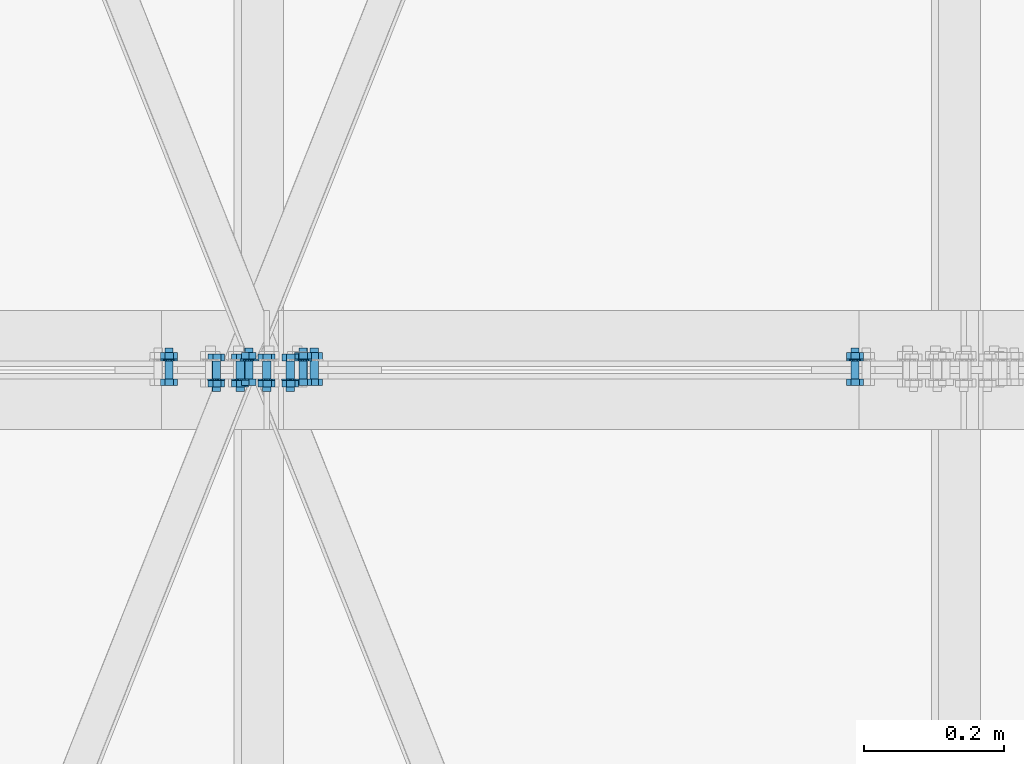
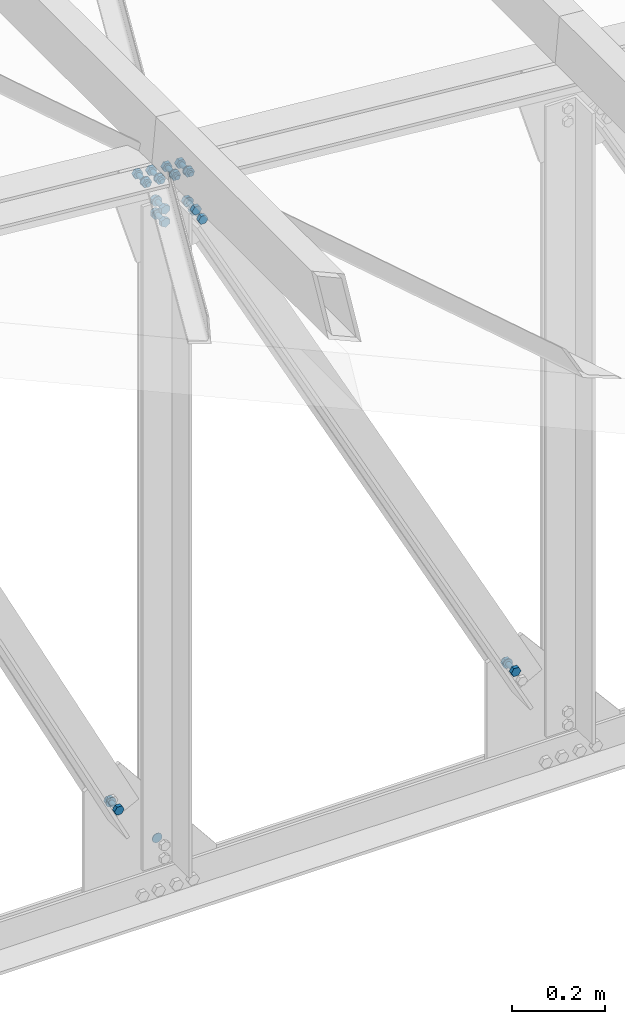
# One storey, part 80 of 251: 40 mechanical fasteners.
"""IFC4 building model written with IfcOpenShell, lengths in metres."""

from ifc_helpers import new_model, si_unit, frame, origin_with_axes, place, context, project, spatial, polyline, outline, extrude, type_object, element, save


model = new_model("IFC4")

# Units and contexts
model_context = context("Model", 3, precision=1e-05, world=origin_with_axes())
ifc_project = project(units=[si_unit("LENGTHUNIT", "METRE"), si_unit("AREAUNIT", "SQUARE_METRE"), si_unit("VOLUMEUNIT", "CUBIC_METRE"), si_unit("MASSUNIT", "GRAM", prefix="KILO"), si_unit("TIMEUNIT", "SECOND"), si_unit("PLANEANGLEUNIT", "RADIAN"), si_unit("SOLIDANGLEUNIT", "STERADIAN"), si_unit("THERMODYNAMICTEMPERATUREUNIT", "DEGREE_CELSIUS")], contexts=[model_context])

# Site, building, storey
placement_1 = place(None, origin_with_axes())
site = spatial("IfcSite", under=ifc_project, at=placement_1, Name="Italia", CompositionType="ELEMENT")
building = spatial("IfcBuilding", under=site, at=placement_1, Name="Deposito", CompositionType="ELEMENT")
storey = spatial("IfcBuildingStorey", under=building, at=placement_1, Name="Storey 0", CompositionType="ELEMENT", Elevation=0.0)

# Mechanical fasteners
mechanical_fastener_type_1 = type_object("IfcMechanicalFastenerType", Name="Reticolare 3", PredefinedType="BOLT")
placement_2 = place(placement_1, origin_with_axes())
mechanical_fastener_1_placement = place(placement_2, origin_with_axes())
element("IfcMechanicalFastener", 1, at=mechanical_fastener_1_placement, inside=storey, type_object=mechanical_fastener_type_1, Name="Reticolare 3", NominalDiameter=0.024, context=model_context, shape_type="SweptSolid", body=[
    extrude(outline(polyline([(0.0, 0.0), (-0.000409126, -0.00310564), (-0.00160789, -0.00600004), (-0.00351524, -0.00848532), (-0.00600052, -0.0103922), (-0.00889397, -0.011591), (-0.0120001, -0.0120001), (-0.0151062, -0.011591), (-0.0179996, -0.0103922), (-0.0204849, -0.00848532), (-0.0223923, -0.00600004), (-0.023591, -0.00310564), (-0.0240002, 0.0), (-0.023591, 0.00310564), (-0.0223923, 0.00600004), (-0.0204849, 0.00848532), (-0.0179996, 0.0103922), (-0.0151062, 0.011591), (-0.0120001, 0.0120001), (-0.00889397, 0.011591), (-0.00600052, 0.0103922), (-0.00351524, 0.00848532), (-0.00160789, 0.00600004), (-0.000409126, 0.00310564), (0.0, 0.0)])), frame((10.0431, 5.015, 5.12053), z_axis=(0.0, -1.0, 0.0), x_axis=(1.0, 0.0, 0.0)), (0.0, 0.0, 1.0), 0.00199986),
])
mechanical_fastener_type_2 = type_object("IfcMechanicalFastenerType", Name="Reticolare 3", PredefinedType="BOLT")
mechanical_fastener_2_placement = place(placement_2, origin_with_axes())
element("IfcMechanicalFastener", 2, at=mechanical_fastener_2_placement, inside=storey, type_object=mechanical_fastener_type_2, Name="Reticolare 3", NominalDiameter=0.0119997, context=model_context, shape_type="SweptSolid", body=[
    extrude(outline(polyline([(0.0, 0.0), (-0.00543976, 0.0106959), (0.0011034, 0.0207553), (0.0130863, 0.0201182), (0.0185261, 0.0094223), (0.0119829, -0.000637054), (0.0, 0.0)])), frame((9.91037, 4.987, 5.24358), z_axis=(0.0, -1.0, 0.0), x_axis=(1.0, 0.0, 0.0)), (0.0, 0.0, 1.0), 0.00960016),
])
mechanical_fastener_type_3 = type_object("IfcMechanicalFastenerType", Name="Reticolare 3", PredefinedType="BOLT")
mechanical_fastener_3_placement = place(placement_2, origin_with_axes())
element("IfcMechanicalFastener", 3, at=mechanical_fastener_3_placement, inside=storey, type_object=mechanical_fastener_type_3, Name="Reticolare 3", NominalDiameter=0.012, context=model_context, shape_type="SweptSolid", body=[
    extrude(outline(polyline([(0.0, 0.0), (-0.000204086, -0.00155306), (-0.000802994, -0.00299978), (-0.00175667, -0.00424242), (-0.00299931, -0.00519609), (-0.00444698, -0.00579548), (-0.00599957, -0.00600004), (-0.00755215, -0.00579548), (-0.00899982, -0.00519609), (-0.0102425, -0.00424242), (-0.0111961, -0.00299978), (-0.011795, -0.00155306), (-0.0119991, 0.0), (-0.011795, 0.00155306), (-0.0111961, 0.00299978), (-0.0102425, 0.00424242), (-0.00899982, 0.00519609), (-0.00755215, 0.00579548), (-0.00599957, 0.00600004), (-0.00444698, 0.00579548), (-0.00299931, 0.00519609), (-0.00175667, 0.00424242), (-0.000802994, 0.00299978), (-0.000204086, 0.00155306), (0.0, 0.0)])), frame((9.92291, 5.031, 5.25363), z_axis=(0.0, -1.0, 0.0), x_axis=(1.0, 0.0, 0.0)), (0.0, 0.0, 1.0), 0.0440001),
])
mechanical_fastener_type_4 = type_object("IfcMechanicalFastenerType", Name="Reticolare 3", PredefinedType="BOLT")
mechanical_fastener_4_placement = place(placement_2, origin_with_axes())
element("IfcMechanicalFastener", 4, at=mechanical_fastener_4_placement, inside=storey, type_object=mechanical_fastener_type_4, Name="Reticolare 3", NominalDiameter=0.0119997, context=model_context, shape_type="SweptSolid", body=[
    extrude(outline(polyline([(0.0, 0.0), (-0.00543976, 0.0106959), (0.0011034, 0.0207553), (0.0130863, 0.0201182), (0.0185261, 0.0094223), (0.0119829, -0.000637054), (0.0, 0.0)])), frame((9.91037, 5.0246, 5.24358), z_axis=(0.0, -1.0, 0.0), x_axis=(1.0, 0.0, 0.0)), (0.0, 0.0, 1.0), 0.00960016),
])
mechanical_fastener_type_5 = type_object("IfcMechanicalFastenerType", Name="Reticolare 3", PredefinedType="BOLT")
mechanical_fastener_5_placement = place(placement_2, origin_with_axes())
element("IfcMechanicalFastener", 5, at=mechanical_fastener_5_placement, inside=storey, type_object=mechanical_fastener_type_5, Name="Reticolare 3", NominalDiameter=0.024, context=model_context, shape_type="SweptSolid", body=[
    extrude(outline(polyline([(0.0, 0.0), (-0.000409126, -0.00310564), (-0.00160789, -0.00600004), (-0.00351524, -0.00848532), (-0.00600052, -0.0103922), (-0.00889397, -0.011591), (-0.0120001, -0.0120001), (-0.0151062, -0.011591), (-0.0179996, -0.0103922), (-0.0204849, -0.00848532), (-0.0223923, -0.00600004), (-0.023591, -0.00310564), (-0.0240002, 0.0), (-0.023591, 0.00310564), (-0.0223923, 0.00600004), (-0.0204849, 0.00848532), (-0.0179996, 0.0103922), (-0.0151062, 0.011591), (-0.0120001, 0.0120001), (-0.00889397, 0.011591), (-0.00600052, 0.0103922), (-0.00351524, 0.00848532), (-0.00160789, 0.00600004), (-0.000409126, 0.00310564), (0.0, 0.0)])), frame((9.92891, 5.015, 5.25363), z_axis=(0.0, -1.0, 0.0), x_axis=(1.0, 0.0, 0.0)), (0.0, 0.0, 1.0), 0.00199986),
])
mechanical_fastener_type_6 = type_object("IfcMechanicalFastenerType", Name="Reticolare 3", PredefinedType="BOLT")
mechanical_fastener_6_placement = place(placement_2, origin_with_axes())
element("IfcMechanicalFastener", 6, at=mechanical_fastener_6_placement, inside=storey, type_object=mechanical_fastener_type_6, Name="Reticolare 3", NominalDiameter=0.0119996, context=model_context, shape_type="SweptSolid", body=[
    extrude(outline(polyline([(0.0, 0.0), (-0.00563908, 0.0105929), (0.000716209, 0.0207725), (0.0127087, 0.020359), (0.0183468, 0.0097661), (0.0119925, -0.000413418), (0.0, 0.0)])), frame((10.8909, 4.987, 5.2621), z_axis=(0.0, -1.0, 0.0), x_axis=(1.0, 0.0, 0.0)), (0.0, 0.0, 1.0), 0.00960016),
])
mechanical_fastener_type_7 = type_object("IfcMechanicalFastenerType", Name="Reticolare 3", PredefinedType="BOLT")
mechanical_fastener_7_placement = place(placement_2, origin_with_axes())
element("IfcMechanicalFastener", 7, at=mechanical_fastener_7_placement, inside=storey, type_object=mechanical_fastener_type_7, Name="Reticolare 3", NominalDiameter=0.012, context=model_context, shape_type="SweptSolid", body=[
    extrude(outline(polyline([(0.0, 0.0), (-0.000204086, -0.00155306), (-0.000802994, -0.00299978), (-0.00175667, -0.00424242), (-0.00299931, -0.00519609), (-0.00444698, -0.00579548), (-0.00599957, -0.00600004), (-0.00755215, -0.00579548), (-0.00899982, -0.00519609), (-0.0102425, -0.00424242), (-0.0111961, -0.00299978), (-0.011795, -0.00155306), (-0.0119991, 0.0), (-0.011795, 0.00155306), (-0.0111961, 0.00299978), (-0.0102425, 0.00424242), (-0.00899982, 0.00519609), (-0.00755215, 0.00579548), (-0.00599957, 0.00600004), (-0.00444698, 0.00579548), (-0.00299931, 0.00519609), (-0.00175667, 0.00424242), (-0.000802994, 0.00299978), (-0.000204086, 0.00155306), (0.0, 0.0)])), frame((10.9032, 5.031, 5.27228), z_axis=(0.0, -1.0, 0.0), x_axis=(1.0, 0.0, 0.0)), (0.0, 0.0, 1.0), 0.0440001),
])
mechanical_fastener_type_8 = type_object("IfcMechanicalFastenerType", Name="Reticolare 3", PredefinedType="BOLT")
mechanical_fastener_8_placement = place(placement_2, origin_with_axes())
element("IfcMechanicalFastener", 8, at=mechanical_fastener_8_placement, inside=storey, type_object=mechanical_fastener_type_8, Name="Reticolare 3", NominalDiameter=0.0119996, context=model_context, shape_type="SweptSolid", body=[
    extrude(outline(polyline([(0.0, 0.0), (-0.00563908, 0.0105929), (0.000716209, 0.0207725), (0.0127087, 0.020359), (0.0183468, 0.0097661), (0.0119925, -0.000413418), (0.0, 0.0)])), frame((10.8909, 5.0246, 5.2621), z_axis=(0.0, -1.0, 0.0), x_axis=(1.0, 0.0, 0.0)), (0.0, 0.0, 1.0), 0.00960016),
])
mechanical_fastener_type_9 = type_object("IfcMechanicalFastenerType", Name="Reticolare 3", PredefinedType="BOLT")
mechanical_fastener_9_placement = place(placement_2, origin_with_axes())
element("IfcMechanicalFastener", 9, at=mechanical_fastener_9_placement, inside=storey, type_object=mechanical_fastener_type_9, Name="Reticolare 3", NominalDiameter=0.024, context=model_context, shape_type="SweptSolid", body=[
    extrude(outline(polyline([(0.0, 0.0), (-0.000409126, -0.00310564), (-0.00160789, -0.00600004), (-0.00351524, -0.00848532), (-0.00600052, -0.0103922), (-0.00889397, -0.011591), (-0.0120001, -0.0120001), (-0.0151062, -0.011591), (-0.0179996, -0.0103922), (-0.0204849, -0.00848532), (-0.0223923, -0.00600004), (-0.023591, -0.00310564), (-0.0240002, 0.0), (-0.023591, 0.00310564), (-0.0223923, 0.00600004), (-0.0204849, 0.00848532), (-0.0179996, 0.0103922), (-0.0151062, 0.011591), (-0.0120001, 0.0120001), (-0.00889397, 0.011591), (-0.00600052, 0.0103922), (-0.00351524, 0.00848532), (-0.00160789, 0.00600004), (-0.000409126, 0.00310564), (0.0, 0.0)])), frame((10.9092, 5.015, 5.27228), z_axis=(0.0, -1.0, 0.0), x_axis=(1.0, 0.0, 0.0)), (0.0, 0.0, 1.0), 0.00199986),
])
mechanical_fastener_type_10 = type_object("IfcMechanicalFastenerType", Name="Reticolare 3", PredefinedType="BOLT")
mechanical_fastener_10_placement = place(placement_2, origin_with_axes())
element("IfcMechanicalFastener", 10, at=mechanical_fastener_10_placement, inside=storey, type_object=mechanical_fastener_type_10, Name="Reticolare 3", NominalDiameter=0.0119997, context=model_context, shape_type="SweptSolid", body=[
    extrude(outline(polyline([(0.0, 0.0), (0.0119543, 0.0010457), (0.0188379, -0.00878429), (0.0137663, -0.01966), (0.00181198, -0.0207057), (-0.00507069, -0.0108757), (0.0, 0.0)])), frame((10.0633, 5.013, 6.87276), z_axis=(0.0, 1.0, 0.0), x_axis=(-1.0, 0.0, 0.0)), (0.0, 0.0, 1.0), 0.00960016),
])
mechanical_fastener_type_11 = type_object("IfcMechanicalFastenerType", Name="Reticolare 3", PredefinedType="BOLT")
mechanical_fastener_11_placement = place(placement_2, origin_with_axes())
element("IfcMechanicalFastener", 11, at=mechanical_fastener_11_placement, inside=storey, type_object=mechanical_fastener_type_11, Name="Reticolare 3", NominalDiameter=0.012, context=model_context, shape_type="SweptSolid", body=[
    extrude(outline(polyline([(0.0, 0.0), (-0.000204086, -0.00155306), (-0.000802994, -0.00299978), (-0.00175667, -0.00424242), (-0.00299931, -0.00519609), (-0.00444698, -0.00579548), (-0.00599957, -0.00600004), (-0.00755215, -0.00579548), (-0.00899982, -0.00519609), (-0.0102425, -0.00424242), (-0.0111961, -0.00299978), (-0.011795, -0.00155306), (-0.0119991, 0.0), (-0.011795, 0.00155306), (-0.0111961, 0.00299978), (-0.0102425, 0.00424242), (-0.00899982, 0.00519609), (-0.00755215, 0.00579548), (-0.00599957, 0.00600004), (-0.00444698, 0.00579548), (-0.00299931, 0.00519609), (-0.00175667, 0.00424242), (-0.000802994, 0.00299978), (-0.000204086, 0.00155306), (0.0, 0.0)])), frame((10.0504, 4.969, 6.86293), z_axis=(0.0, 1.0, 0.0), x_axis=(-1.0, 0.0, 0.0)), (0.0, 0.0, 1.0), 0.0440001),
])
mechanical_fastener_type_12 = type_object("IfcMechanicalFastenerType", Name="Reticolare 3", PredefinedType="BOLT")
mechanical_fastener_12_placement = place(placement_2, origin_with_axes())
element("IfcMechanicalFastener", 12, at=mechanical_fastener_12_placement, inside=storey, type_object=mechanical_fastener_type_12, Name="Reticolare 3", NominalDiameter=0.0119997, context=model_context, shape_type="SweptSolid", body=[
    extrude(outline(polyline([(0.0, 0.0), (0.0119543, 0.0010457), (0.0188379, -0.00878429), (0.0137663, -0.01966), (0.00181198, -0.0207057), (-0.00507069, -0.0108757), (0.0, 0.0)])), frame((10.0633, 4.9754, 6.87276), z_axis=(0.0, 1.0, 0.0), x_axis=(-1.0, 0.0, 0.0)), (0.0, 0.0, 1.0), 0.00960016),
])
mechanical_fastener_type_13 = type_object("IfcMechanicalFastenerType", Name="Reticolare 3", PredefinedType="BOLT")
mechanical_fastener_13_placement = place(placement_2, origin_with_axes())
element("IfcMechanicalFastener", 13, at=mechanical_fastener_13_placement, inside=storey, type_object=mechanical_fastener_type_13, Name="Reticolare 3", NominalDiameter=0.024, context=model_context, shape_type="SweptSolid", body=[
    extrude(outline(polyline([(0.0, 0.0), (-0.000409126, -0.00310564), (-0.00160789, -0.00600004), (-0.00351524, -0.00848532), (-0.00600052, -0.0103922), (-0.00889397, -0.011591), (-0.0120001, -0.0120001), (-0.0151062, -0.011591), (-0.0179996, -0.0103922), (-0.0204849, -0.00848532), (-0.0223923, -0.00600004), (-0.023591, -0.00310564), (-0.0240002, 0.0), (-0.023591, 0.00310564), (-0.0223923, 0.00600004), (-0.0204849, 0.00848532), (-0.0179996, 0.0103922), (-0.0151062, 0.011591), (-0.0120001, 0.0120001), (-0.00889397, 0.011591), (-0.00600052, 0.0103922), (-0.00351524, 0.00848532), (-0.00160789, 0.00600004), (-0.000409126, 0.00310564), (0.0, 0.0)])), frame((10.0444, 4.985, 6.86293), z_axis=(0.0, 1.0, 0.0), x_axis=(-1.0, 0.0, 0.0)), (0.0, 0.0, 1.0), 0.00199986),
])
mechanical_fastener_type_14 = type_object("IfcMechanicalFastenerType", Name="Reticolare 3", PredefinedType="BOLT")
mechanical_fastener_14_placement = place(placement_2, origin_with_axes())
element("IfcMechanicalFastener", 14, at=mechanical_fastener_14_placement, inside=storey, type_object=mechanical_fastener_type_14, Name="Reticolare 3", NominalDiameter=0.0119996, context=model_context, shape_type="SweptSolid", body=[
    extrude(outline(polyline([(0.0, 0.0), (0.0119543, 0.00104618), (0.0188379, -0.00878382), (0.0137663, -0.0196595), (0.00181198, -0.0207052), (-0.00507069, -0.0108757), (0.0, 0.0)])), frame((10.0971, 5.013, 6.86979), z_axis=(0.0, 1.0, 0.0), x_axis=(-1.0, 0.0, 0.0)), (0.0, 0.0, 1.0), 0.00960016),
])
mechanical_fastener_type_15 = type_object("IfcMechanicalFastenerType", Name="Reticolare 3", PredefinedType="BOLT")
mechanical_fastener_15_placement = place(placement_2, origin_with_axes())
element("IfcMechanicalFastener", 15, at=mechanical_fastener_15_placement, inside=storey, type_object=mechanical_fastener_type_15, Name="Reticolare 3", NominalDiameter=0.012, context=model_context, shape_type="SweptSolid", body=[
    extrude(outline(polyline([(0.0, 0.0), (-0.000204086, -0.00155306), (-0.000802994, -0.00299978), (-0.00175667, -0.00424242), (-0.00299931, -0.00519609), (-0.00444698, -0.00579548), (-0.00599957, -0.00600004), (-0.00755215, -0.00579548), (-0.00899982, -0.00519609), (-0.0102425, -0.00424242), (-0.0111961, -0.00299978), (-0.011795, -0.00155306), (-0.0119991, 0.0), (-0.011795, 0.00155306), (-0.0111961, 0.00299978), (-0.0102425, 0.00424242), (-0.00899982, 0.00519609), (-0.00755215, 0.00579548), (-0.00599957, 0.00600004), (-0.00444698, 0.00579548), (-0.00299931, 0.00519609), (-0.00175667, 0.00424242), (-0.000802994, 0.00299978), (-0.000204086, 0.00155306), (0.0, 0.0)])), frame((10.0842, 4.969, 6.85996), z_axis=(0.0, 1.0, 0.0), x_axis=(-1.0, 0.0, 0.0)), (0.0, 0.0, 1.0), 0.0440001),
])
mechanical_fastener_type_16 = type_object("IfcMechanicalFastenerType", Name="Reticolare 3", PredefinedType="BOLT")
mechanical_fastener_16_placement = place(placement_2, origin_with_axes())
element("IfcMechanicalFastener", 16, at=mechanical_fastener_16_placement, inside=storey, type_object=mechanical_fastener_type_16, Name="Reticolare 3", NominalDiameter=0.0119996, context=model_context, shape_type="SweptSolid", body=[
    extrude(outline(polyline([(0.0, 0.0), (0.0119543, 0.00104618), (0.0188379, -0.00878382), (0.0137663, -0.0196595), (0.00181198, -0.0207052), (-0.00507069, -0.0108757), (0.0, 0.0)])), frame((10.0971, 4.9754, 6.86979), z_axis=(0.0, 1.0, 0.0), x_axis=(-1.0, 0.0, 0.0)), (0.0, 0.0, 1.0), 0.00960016),
])
mechanical_fastener_type_17 = type_object("IfcMechanicalFastenerType", Name="Reticolare 3", PredefinedType="BOLT")
mechanical_fastener_17_placement = place(placement_2, origin_with_axes())
element("IfcMechanicalFastener", 17, at=mechanical_fastener_17_placement, inside=storey, type_object=mechanical_fastener_type_17, Name="Reticolare 3", NominalDiameter=0.024, context=model_context, shape_type="SweptSolid", body=[
    extrude(outline(polyline([(0.0, 0.0), (-0.000409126, -0.00310564), (-0.00160789, -0.00600004), (-0.00351524, -0.00848532), (-0.00600052, -0.0103922), (-0.00889397, -0.011591), (-0.0120001, -0.0120001), (-0.0151062, -0.011591), (-0.0179996, -0.0103922), (-0.0204849, -0.00848532), (-0.0223923, -0.00600004), (-0.023591, -0.00310564), (-0.0240002, 0.0), (-0.023591, 0.00310564), (-0.0223923, 0.00600004), (-0.0204849, 0.00848532), (-0.0179996, 0.0103922), (-0.0151062, 0.011591), (-0.0120001, 0.0120001), (-0.00889397, 0.011591), (-0.00600052, 0.0103922), (-0.00351524, 0.00848532), (-0.00160789, 0.00600004), (-0.000409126, 0.00310564), (0.0, 0.0)])), frame((10.0782, 4.985, 6.85996), z_axis=(0.0, 1.0, 0.0), x_axis=(-1.0, 0.0, 0.0)), (0.0, 0.0, 1.0), 0.00199986),
])
mechanical_fastener_type_18 = type_object("IfcMechanicalFastenerType", Name="Reticolare 3", PredefinedType="BOLT")
mechanical_fastener_18_placement = place(placement_2, origin_with_axes())
element("IfcMechanicalFastener", 18, at=mechanical_fastener_18_placement, inside=storey, type_object=mechanical_fastener_type_18, Name="Reticolare 3", NominalDiameter=0.0119996, context=model_context, shape_type="SweptSolid", body=[
    extrude(outline(polyline([(0.0, 0.0), (0.0119543, 0.00104618), (0.018837, -0.00878382), (0.0137653, -0.0196595), (0.00181103, -0.0207052), (-0.00507164, -0.0108757), (0.0, 0.0)])), frame((10.0254, 5.013, 6.87607), z_axis=(0.0, 1.0, 0.0), x_axis=(-1.0, 0.0, 0.0)), (0.0, 0.0, 1.0), 0.00960016),
])
mechanical_fastener_type_19 = type_object("IfcMechanicalFastenerType", Name="Reticolare 3", PredefinedType="BOLT")
mechanical_fastener_19_placement = place(placement_2, origin_with_axes())
element("IfcMechanicalFastener", 19, at=mechanical_fastener_19_placement, inside=storey, type_object=mechanical_fastener_type_19, Name="Reticolare 3", NominalDiameter=0.012, context=model_context, shape_type="SweptSolid", body=[
    extrude(outline(polyline([(0.0, 0.0), (-0.000204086, -0.00155306), (-0.000802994, -0.00299978), (-0.00175667, -0.00424242), (-0.00299931, -0.00519609), (-0.00444698, -0.00579548), (-0.00599957, -0.00600004), (-0.00755215, -0.00579548), (-0.00899982, -0.00519609), (-0.0102425, -0.00424242), (-0.0111961, -0.00299978), (-0.011795, -0.00155306), (-0.0119991, 0.0), (-0.011795, 0.00155306), (-0.0111961, 0.00299978), (-0.0102425, 0.00424242), (-0.00899982, 0.00519609), (-0.00755215, 0.00579548), (-0.00599957, 0.00600004), (-0.00444698, 0.00579548), (-0.00299931, 0.00519609), (-0.00175667, 0.00424242), (-0.000802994, 0.00299978), (-0.000204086, 0.00155306), (0.0, 0.0)])), frame((10.0125, 4.969, 6.86624), z_axis=(0.0, 1.0, 0.0), x_axis=(-1.0, 0.0, 0.0)), (0.0, 0.0, 1.0), 0.0440001),
])
mechanical_fastener_type_20 = type_object("IfcMechanicalFastenerType", Name="Reticolare 3", PredefinedType="BOLT")
mechanical_fastener_20_placement = place(placement_2, origin_with_axes())
element("IfcMechanicalFastener", 20, at=mechanical_fastener_20_placement, inside=storey, type_object=mechanical_fastener_type_20, Name="Reticolare 3", NominalDiameter=0.0119996, context=model_context, shape_type="SweptSolid", body=[
    extrude(outline(polyline([(0.0, 0.0), (0.0119543, 0.00104618), (0.018837, -0.00878382), (0.0137653, -0.0196595), (0.00181103, -0.0207052), (-0.00507164, -0.0108757), (0.0, 0.0)])), frame((10.0254, 4.9754, 6.87607), z_axis=(0.0, 1.0, 0.0), x_axis=(-1.0, 0.0, 0.0)), (0.0, 0.0, 1.0), 0.00960016),
])
mechanical_fastener_type_21 = type_object("IfcMechanicalFastenerType", Name="Reticolare 3", PredefinedType="BOLT")
mechanical_fastener_21_placement = place(placement_2, origin_with_axes())
element("IfcMechanicalFastener", 21, at=mechanical_fastener_21_placement, inside=storey, type_object=mechanical_fastener_type_21, Name="Reticolare 3", NominalDiameter=0.024, context=model_context, shape_type="SweptSolid", body=[
    extrude(outline(polyline([(0.0, 0.0), (-0.000409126, -0.00310564), (-0.00160789, -0.00600004), (-0.00351524, -0.00848532), (-0.00600052, -0.0103922), (-0.00889397, -0.011591), (-0.0120001, -0.0120001), (-0.0151062, -0.011591), (-0.0179996, -0.0103922), (-0.0204849, -0.00848532), (-0.0223923, -0.00600004), (-0.023591, -0.00310564), (-0.0240002, 0.0), (-0.023591, 0.00310564), (-0.0223923, 0.00600004), (-0.0204849, 0.00848532), (-0.0179996, 0.0103922), (-0.0151062, 0.011591), (-0.0120001, 0.0120001), (-0.00889397, 0.011591), (-0.00600052, 0.0103922), (-0.00351524, 0.00848532), (-0.00160789, 0.00600004), (-0.000409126, 0.00310564), (0.0, 0.0)])), frame((10.0065, 4.985, 6.86624), z_axis=(0.0, 1.0, 0.0), x_axis=(-1.0, 0.0, 0.0)), (0.0, 0.0, 1.0), 0.00199986),
])
mechanical_fastener_type_22 = type_object("IfcMechanicalFastenerType", Name="Reticolare 3", PredefinedType="BOLT")
mechanical_fastener_22_placement = place(placement_2, origin_with_axes())
element("IfcMechanicalFastener", 22, at=mechanical_fastener_22_placement, inside=storey, type_object=mechanical_fastener_type_22, Name="Reticolare 3", NominalDiameter=0.012, context=model_context, shape_type="SweptSolid", body=[
    extrude(outline(polyline([(0.0, 0.0), (0.0119543, 0.0010457), (0.018837, -0.00878429), (0.0137653, -0.01966), (0.00181103, -0.0207057), (-0.00507164, -0.0108757), (0.0, 0.0)])), frame((9.99153, 5.013, 6.87903), z_axis=(0.0, 1.0, 0.0), x_axis=(-1.0, 0.0, 0.0)), (0.0, 0.0, 1.0), 0.00960016),
])
mechanical_fastener_type_23 = type_object("IfcMechanicalFastenerType", Name="Reticolare 3", PredefinedType="BOLT")
mechanical_fastener_23_placement = place(placement_2, origin_with_axes())
element("IfcMechanicalFastener", 23, at=mechanical_fastener_23_placement, inside=storey, type_object=mechanical_fastener_type_23, Name="Reticolare 3", NominalDiameter=0.012, context=model_context, shape_type="SweptSolid", body=[
    extrude(outline(polyline([(0.0, 0.0), (-0.000204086, -0.00155306), (-0.000802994, -0.00299978), (-0.00175667, -0.00424242), (-0.00299931, -0.00519609), (-0.00444698, -0.00579548), (-0.00599957, -0.00600004), (-0.00755215, -0.00579548), (-0.00899982, -0.00519609), (-0.0102425, -0.00424242), (-0.0111961, -0.00299978), (-0.011795, -0.00155306), (-0.0119991, 0.0), (-0.011795, 0.00155306), (-0.0111961, 0.00299978), (-0.0102425, 0.00424242), (-0.00899982, 0.00519609), (-0.00755215, 0.00579548), (-0.00599957, 0.00600004), (-0.00444698, 0.00579548), (-0.00299931, 0.00519609), (-0.00175667, 0.00424242), (-0.000802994, 0.00299978), (-0.000204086, 0.00155306), (0.0, 0.0)])), frame((9.97864, 4.969, 6.8692), z_axis=(0.0, 1.0, 0.0), x_axis=(-1.0, 0.0, 0.0)), (0.0, 0.0, 1.0), 0.0440001),
])
mechanical_fastener_type_24 = type_object("IfcMechanicalFastenerType", Name="Reticolare 3", PredefinedType="BOLT")
mechanical_fastener_24_placement = place(placement_2, origin_with_axes())
element("IfcMechanicalFastener", 24, at=mechanical_fastener_24_placement, inside=storey, type_object=mechanical_fastener_type_24, Name="Reticolare 3", NominalDiameter=0.012, context=model_context, shape_type="SweptSolid", body=[
    extrude(outline(polyline([(0.0, 0.0), (0.0119543, 0.0010457), (0.018837, -0.00878429), (0.0137653, -0.01966), (0.00181103, -0.0207057), (-0.00507164, -0.0108757), (0.0, 0.0)])), frame((9.99153, 4.9754, 6.87903), z_axis=(0.0, 1.0, 0.0), x_axis=(-1.0, 0.0, 0.0)), (0.0, 0.0, 1.0), 0.00960016),
])
mechanical_fastener_type_25 = type_object("IfcMechanicalFastenerType", Name="Reticolare 3", PredefinedType="BOLT")
mechanical_fastener_25_placement = place(placement_2, origin_with_axes())
element("IfcMechanicalFastener", 25, at=mechanical_fastener_25_placement, inside=storey, type_object=mechanical_fastener_type_25, Name="Reticolare 3", NominalDiameter=0.024, context=model_context, shape_type="SweptSolid", body=[
    extrude(outline(polyline([(0.0, 0.0), (-0.000409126, -0.00310564), (-0.00160789, -0.00600004), (-0.00351524, -0.00848532), (-0.00600052, -0.0103922), (-0.00889397, -0.011591), (-0.0120001, -0.0120001), (-0.0151062, -0.011591), (-0.0179996, -0.0103922), (-0.0204849, -0.00848532), (-0.0223923, -0.00600004), (-0.023591, -0.00310564), (-0.0240002, 0.0), (-0.023591, 0.00310564), (-0.0223923, 0.00600004), (-0.0204849, 0.00848532), (-0.0179996, 0.0103922), (-0.0151062, 0.011591), (-0.0120001, 0.0120001), (-0.00889397, 0.011591), (-0.00600052, 0.0103922), (-0.00351524, 0.00848532), (-0.00160789, 0.00600004), (-0.000409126, 0.00310564), (0.0, 0.0)])), frame((9.97264, 4.985, 6.8692), z_axis=(0.0, 1.0, 0.0), x_axis=(-1.0, 0.0, 0.0)), (0.0, 0.0, 1.0), 0.00199986),
])
mechanical_fastener_type_26 = type_object("IfcMechanicalFastenerType", Name="Reticolare 3", PredefinedType="BOLT")
mechanical_fastener_26_placement = place(placement_2, origin_with_axes())
element("IfcMechanicalFastener", 26, at=mechanical_fastener_26_placement, inside=storey, type_object=mechanical_fastener_type_26, Name="Reticolare 3", NominalDiameter=0.0119999, context=model_context, shape_type="SweptSolid", body=[
    extrude(outline(polyline([(0.0, 0.0), (0.0, -0.0120001), (-0.0103922, -0.0180001), (-0.0207844, -0.0120001), (-0.0207844, 0.0), (-0.0103922, 0.00600004), (0.0, 0.0)])), frame((10.0414, 4.987, 6.7888), z_axis=(0.0, -1.0, 0.0), x_axis=(1.0, 0.0, 0.0)), (0.0, 0.0, 1.0), 0.00960016),
])
mechanical_fastener_type_27 = type_object("IfcMechanicalFastenerType", Name="Reticolare 3", PredefinedType="BOLT")
mechanical_fastener_27_placement = place(placement_2, origin_with_axes())
element("IfcMechanicalFastener", 27, at=mechanical_fastener_27_placement, inside=storey, type_object=mechanical_fastener_type_27, Name="Reticolare 3", NominalDiameter=0.012, context=model_context, shape_type="SweptSolid", body=[
    extrude(outline(polyline([(0.0, 0.0), (-0.000204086, -0.00155306), (-0.000802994, -0.00299978), (-0.00175667, -0.00424242), (-0.00299931, -0.00519609), (-0.00444698, -0.00579548), (-0.00599957, -0.00600004), (-0.00755215, -0.00579548), (-0.00899982, -0.00519609), (-0.0102425, -0.00424242), (-0.0111961, -0.00299978), (-0.011795, -0.00155306), (-0.0119991, 0.0), (-0.011795, 0.00155306), (-0.0111961, 0.00299978), (-0.0102425, 0.00424242), (-0.00899982, 0.00519609), (-0.00755215, 0.00579548), (-0.00599957, 0.00600004), (-0.00444698, 0.00579548), (-0.00299931, 0.00519609), (-0.00175667, 0.00424242), (-0.000802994, 0.00299978), (-0.000204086, 0.00155306), (0.0, 0.0)])), frame((10.0371, 5.031, 6.7828), z_axis=(0.0, -1.0, 0.0), x_axis=(1.0, 0.0, 0.0)), (0.0, 0.0, 1.0), 0.0440001),
])
mechanical_fastener_type_28 = type_object("IfcMechanicalFastenerType", Name="Reticolare 3", PredefinedType="BOLT")
mechanical_fastener_28_placement = place(placement_2, origin_with_axes())
element("IfcMechanicalFastener", 28, at=mechanical_fastener_28_placement, inside=storey, type_object=mechanical_fastener_type_28, Name="Reticolare 3", NominalDiameter=0.0119999, context=model_context, shape_type="SweptSolid", body=[
    extrude(outline(polyline([(0.0, 0.0), (0.0, -0.0120001), (-0.0103922, -0.0180001), (-0.0207844, -0.0120001), (-0.0207844, 0.0), (-0.0103922, 0.00600004), (0.0, 0.0)])), frame((10.0414, 5.0246, 6.7888), z_axis=(0.0, -1.0, 0.0), x_axis=(1.0, 0.0, 0.0)), (0.0, 0.0, 1.0), 0.00960016),
])
mechanical_fastener_type_29 = type_object("IfcMechanicalFastenerType", Name="Reticolare 3", PredefinedType="BOLT")
mechanical_fastener_29_placement = place(placement_2, origin_with_axes())
element("IfcMechanicalFastener", 29, at=mechanical_fastener_29_placement, inside=storey, type_object=mechanical_fastener_type_29, Name="Reticolare 3", NominalDiameter=0.024, context=model_context, shape_type="SweptSolid", body=[
    extrude(outline(polyline([(0.0, 0.0), (-0.000409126, -0.00310564), (-0.00160789, -0.00600004), (-0.00351524, -0.00848532), (-0.00600052, -0.0103922), (-0.00889397, -0.011591), (-0.0120001, -0.0120001), (-0.0151062, -0.011591), (-0.0179996, -0.0103922), (-0.0204849, -0.00848532), (-0.0223923, -0.00600004), (-0.023591, -0.00310564), (-0.0240002, 0.0), (-0.023591, 0.00310564), (-0.0223923, 0.00600004), (-0.0204849, 0.00848532), (-0.0179996, 0.0103922), (-0.0151062, 0.011591), (-0.0120001, 0.0120001), (-0.00889397, 0.011591), (-0.00600052, 0.0103922), (-0.00351524, 0.00848532), (-0.00160789, 0.00600004), (-0.000409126, 0.00310564), (0.0, 0.0)])), frame((10.0431, 5.015, 6.7828), z_axis=(0.0, -1.0, 0.0), x_axis=(1.0, 0.0, 0.0)), (0.0, 0.0, 1.0), 0.00199986),
])
mechanical_fastener_type_30 = type_object("IfcMechanicalFastenerType", Name="Reticolare 3", PredefinedType="BOLT")
mechanical_fastener_30_placement = place(placement_2, origin_with_axes())
element("IfcMechanicalFastener", 30, at=mechanical_fastener_30_placement, inside=storey, type_object=mechanical_fastener_type_30, Name="Reticolare 3", NominalDiameter=0.0119999, context=model_context, shape_type="SweptSolid", body=[
    extrude(outline(polyline([(0.0, 0.0), (0.0, -0.0120001), (-0.0103922, -0.0180001), (-0.0207844, -0.0120001), (-0.0207844, 0.0), (-0.0103922, 0.00600004), (0.0, 0.0)])), frame((10.0414, 4.987, 6.7548), z_axis=(0.0, -1.0, 0.0), x_axis=(1.0, 0.0, 0.0)), (0.0, 0.0, 1.0), 0.00960016),
])
mechanical_fastener_type_31 = type_object("IfcMechanicalFastenerType", Name="Reticolare 3", PredefinedType="BOLT")
mechanical_fastener_31_placement = place(placement_2, origin_with_axes())
element("IfcMechanicalFastener", 31, at=mechanical_fastener_31_placement, inside=storey, type_object=mechanical_fastener_type_31, Name="Reticolare 3", NominalDiameter=0.012, context=model_context, shape_type="SweptSolid", body=[
    extrude(outline(polyline([(0.0, 0.0), (-0.000204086, -0.00155306), (-0.000802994, -0.00299978), (-0.00175667, -0.00424242), (-0.00299931, -0.00519609), (-0.00444698, -0.00579548), (-0.00599957, -0.00600004), (-0.00755215, -0.00579548), (-0.00899982, -0.00519609), (-0.0102425, -0.00424242), (-0.0111961, -0.00299978), (-0.011795, -0.00155306), (-0.0119991, 0.0), (-0.011795, 0.00155306), (-0.0111961, 0.00299978), (-0.0102425, 0.00424242), (-0.00899982, 0.00519609), (-0.00755215, 0.00579548), (-0.00599957, 0.00600004), (-0.00444698, 0.00579548), (-0.00299931, 0.00519609), (-0.00175667, 0.00424242), (-0.000802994, 0.00299978), (-0.000204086, 0.00155306), (0.0, 0.0)])), frame((10.0371, 5.031, 6.7488), z_axis=(0.0, -1.0, 0.0), x_axis=(1.0, 0.0, 0.0)), (0.0, 0.0, 1.0), 0.0440001),
])
mechanical_fastener_type_32 = type_object("IfcMechanicalFastenerType", Name="Reticolare 3", PredefinedType="BOLT")
mechanical_fastener_32_placement = place(placement_2, origin_with_axes())
element("IfcMechanicalFastener", 32, at=mechanical_fastener_32_placement, inside=storey, type_object=mechanical_fastener_type_32, Name="Reticolare 3", NominalDiameter=0.0119999, context=model_context, shape_type="SweptSolid", body=[
    extrude(outline(polyline([(0.0, 0.0), (0.0, -0.0120001), (-0.0103922, -0.0180001), (-0.0207844, -0.0120001), (-0.0207844, 0.0), (-0.0103922, 0.00600004), (0.0, 0.0)])), frame((10.0414, 5.0246, 6.7548), z_axis=(0.0, -1.0, 0.0), x_axis=(1.0, 0.0, 0.0)), (0.0, 0.0, 1.0), 0.00960016),
])
mechanical_fastener_type_33 = type_object("IfcMechanicalFastenerType", Name="Reticolare 3", PredefinedType="BOLT")
mechanical_fastener_33_placement = place(placement_2, origin_with_axes())
element("IfcMechanicalFastener", 33, at=mechanical_fastener_33_placement, inside=storey, type_object=mechanical_fastener_type_33, Name="Reticolare 3", NominalDiameter=0.024, context=model_context, shape_type="SweptSolid", body=[
    extrude(outline(polyline([(0.0, 0.0), (-0.000409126, -0.00310564), (-0.00160789, -0.00600004), (-0.00351524, -0.00848532), (-0.00600052, -0.0103922), (-0.00889397, -0.011591), (-0.0120001, -0.0120001), (-0.0151062, -0.011591), (-0.0179996, -0.0103922), (-0.0204849, -0.00848532), (-0.0223923, -0.00600004), (-0.023591, -0.00310564), (-0.0240002, 0.0), (-0.023591, 0.00310564), (-0.0223923, 0.00600004), (-0.0204849, 0.00848532), (-0.0179996, 0.0103922), (-0.0151062, 0.011591), (-0.0120001, 0.0120001), (-0.00889397, 0.011591), (-0.00600052, 0.0103922), (-0.00351524, 0.00848532), (-0.00160789, 0.00600004), (-0.000409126, 0.00310564), (0.0, 0.0)])), frame((10.0431, 5.015, 6.7488), z_axis=(0.0, -1.0, 0.0), x_axis=(1.0, 0.0, 0.0)), (0.0, 0.0, 1.0), 0.00199986),
])
mechanical_fastener_type_34 = type_object("IfcMechanicalFastenerType", Name="Reticolare 3", PredefinedType="BOLT")
mechanical_fastener_34_placement = place(placement_2, origin_with_axes())
element("IfcMechanicalFastener", 34, at=mechanical_fastener_34_placement, inside=storey, type_object=mechanical_fastener_type_34, Name="Reticolare 3", NominalDiameter=0.0119999, context=model_context, shape_type="SweptSolid", body=[
    extrude(outline(polyline([(0.0, 0.0), (-0.00563812, 0.0105929), (0.000716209, 0.0207725), (0.0127096, 0.020359), (0.0183477, 0.0097661), (0.0119934, -0.000413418), (0.0, 0.0)])), frame((10.1022, 4.987, 6.74381), z_axis=(0.0, -1.0, 0.0), x_axis=(1.0, 0.0, 0.0)), (0.0, 0.0, 1.0), 0.00960016),
])
mechanical_fastener_type_35 = type_object("IfcMechanicalFastenerType", Name="Reticolare 3", PredefinedType="BOLT")
mechanical_fastener_35_placement = place(placement_2, origin_with_axes())
element("IfcMechanicalFastener", 35, at=mechanical_fastener_35_placement, inside=storey, type_object=mechanical_fastener_type_35, Name="Reticolare 3", NominalDiameter=0.012, context=model_context, shape_type="SweptSolid", body=[
    extrude(outline(polyline([(0.0, 0.0), (-0.000204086, -0.00155306), (-0.000802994, -0.00299978), (-0.00175667, -0.00424242), (-0.00299931, -0.00519609), (-0.00444698, -0.00579548), (-0.00599957, -0.00600004), (-0.00755215, -0.00579548), (-0.00899982, -0.00519609), (-0.0102425, -0.00424242), (-0.0111961, -0.00299978), (-0.011795, -0.00155306), (-0.0119991, 0.0), (-0.011795, 0.00155306), (-0.0111961, 0.00299978), (-0.0102425, 0.00424242), (-0.00899982, 0.00519609), (-0.00755215, 0.00579548), (-0.00599957, 0.00600004), (-0.00444698, 0.00579548), (-0.00299931, 0.00519609), (-0.00175667, 0.00424242), (-0.000802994, 0.00299978), (-0.000204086, 0.00155306), (0.0, 0.0)])), frame((10.1146, 5.031, 6.75399), z_axis=(0.0, -1.0, 0.0), x_axis=(1.0, 0.0, 0.0)), (0.0, 0.0, 1.0), 0.0440001),
])
mechanical_fastener_type_36 = type_object("IfcMechanicalFastenerType", Name="Reticolare 3", PredefinedType="BOLT")
mechanical_fastener_36_placement = place(placement_2, origin_with_axes())
element("IfcMechanicalFastener", 36, at=mechanical_fastener_36_placement, inside=storey, type_object=mechanical_fastener_type_36, Name="Reticolare 3", NominalDiameter=0.0119999, context=model_context, shape_type="SweptSolid", body=[
    extrude(outline(polyline([(0.0, 0.0), (-0.00563812, 0.0105929), (0.000716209, 0.0207725), (0.0127096, 0.020359), (0.0183477, 0.0097661), (0.0119934, -0.000413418), (0.0, 0.0)])), frame((10.1022, 5.0246, 6.74381), z_axis=(0.0, -1.0, 0.0), x_axis=(1.0, 0.0, 0.0)), (0.0, 0.0, 1.0), 0.00960016),
])
mechanical_fastener_type_37 = type_object("IfcMechanicalFastenerType", Name="Reticolare 3", PredefinedType="BOLT")
mechanical_fastener_37_placement = place(placement_2, origin_with_axes())
element("IfcMechanicalFastener", 37, at=mechanical_fastener_37_placement, inside=storey, type_object=mechanical_fastener_type_37, Name="Reticolare 3", NominalDiameter=0.024, context=model_context, shape_type="SweptSolid", body=[
    extrude(outline(polyline([(0.0, 0.0), (-0.000409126, -0.00310564), (-0.00160789, -0.00600004), (-0.00351524, -0.00848532), (-0.00600052, -0.0103922), (-0.00889397, -0.011591), (-0.0120001, -0.0120001), (-0.0151062, -0.011591), (-0.0179996, -0.0103922), (-0.0204849, -0.00848532), (-0.0223923, -0.00600004), (-0.023591, -0.00310564), (-0.0240002, 0.0), (-0.023591, 0.00310564), (-0.0223923, 0.00600004), (-0.0204849, 0.00848532), (-0.0179996, 0.0103922), (-0.0151062, 0.011591), (-0.0120001, 0.0120001), (-0.00889397, 0.011591), (-0.00600052, 0.0103922), (-0.00351524, 0.00848532), (-0.00160789, 0.00600004), (-0.000409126, 0.00310564), (0.0, 0.0)])), frame((10.1206, 5.015, 6.75399), z_axis=(0.0, -1.0, 0.0), x_axis=(1.0, 0.0, 0.0)), (0.0, 0.0, 1.0), 0.00199986),
])
mechanical_fastener_type_38 = type_object("IfcMechanicalFastenerType", Name="Reticolare 3", PredefinedType="BOLT")
mechanical_fastener_38_placement = place(placement_2, origin_with_axes())
element("IfcMechanicalFastener", 38, at=mechanical_fastener_38_placement, inside=storey, type_object=mechanical_fastener_type_38, Name="Reticolare 3", NominalDiameter=0.0119996, context=model_context, shape_type="SweptSolid", body=[
    extrude(outline(polyline([(0.0, 0.0), (-0.00563908, 0.0105929), (0.000716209, 0.0207725), (0.0127087, 0.020359), (0.0183468, 0.0097661), (0.0119925, -0.000413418), (0.0, 0.0)])), frame((10.1182, 4.987, 6.71379), z_axis=(0.0, -1.0, 0.0), x_axis=(1.0, 0.0, 0.0)), (0.0, 0.0, 1.0), 0.00960016),
])
mechanical_fastener_type_39 = type_object("IfcMechanicalFastenerType", Name="Reticolare 3", PredefinedType="BOLT")
mechanical_fastener_39_placement = place(placement_2, origin_with_axes())
element("IfcMechanicalFastener", 39, at=mechanical_fastener_39_placement, inside=storey, type_object=mechanical_fastener_type_39, Name="Reticolare 3", NominalDiameter=0.012, context=model_context, shape_type="SweptSolid", body=[
    extrude(outline(polyline([(0.0, 0.0), (-0.000204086, -0.00155306), (-0.000802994, -0.00299978), (-0.00175667, -0.00424242), (-0.00299931, -0.00519609), (-0.00444698, -0.00579548), (-0.00599957, -0.00600004), (-0.00755215, -0.00579548), (-0.00899982, -0.00519609), (-0.0102425, -0.00424242), (-0.0111961, -0.00299978), (-0.011795, -0.00155306), (-0.0119991, 0.0), (-0.011795, 0.00155306), (-0.0111961, 0.00299978), (-0.0102425, 0.00424242), (-0.00899982, 0.00519609), (-0.00755215, 0.00579548), (-0.00599957, 0.00600004), (-0.00444698, 0.00579548), (-0.00299931, 0.00519609), (-0.00175667, 0.00424242), (-0.000802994, 0.00299978), (-0.000204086, 0.00155306), (0.0, 0.0)])), frame((10.1305, 5.031, 6.72397), z_axis=(0.0, -1.0, 0.0), x_axis=(1.0, 0.0, 0.0)), (0.0, 0.0, 1.0), 0.0440001),
])
mechanical_fastener_type_40 = type_object("IfcMechanicalFastenerType", Name="Reticolare 3", PredefinedType="BOLT")
mechanical_fastener_40_placement = place(placement_2, origin_with_axes())
element("IfcMechanicalFastener", 40, at=mechanical_fastener_40_placement, inside=storey, type_object=mechanical_fastener_type_40, Name="Reticolare 3", NominalDiameter=0.0119996, context=model_context, shape_type="SweptSolid", body=[
    extrude(outline(polyline([(0.0, 0.0), (-0.00563908, 0.0105929), (0.000716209, 0.0207725), (0.0127087, 0.020359), (0.0183468, 0.0097661), (0.0119925, -0.000413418), (0.0, 0.0)])), frame((10.1182, 5.0246, 6.71379), z_axis=(0.0, -1.0, 0.0), x_axis=(1.0, 0.0, 0.0)), (0.0, 0.0, 1.0), 0.00960016),
])

save(model, "model.ifc")
